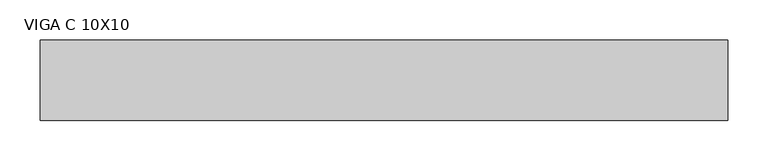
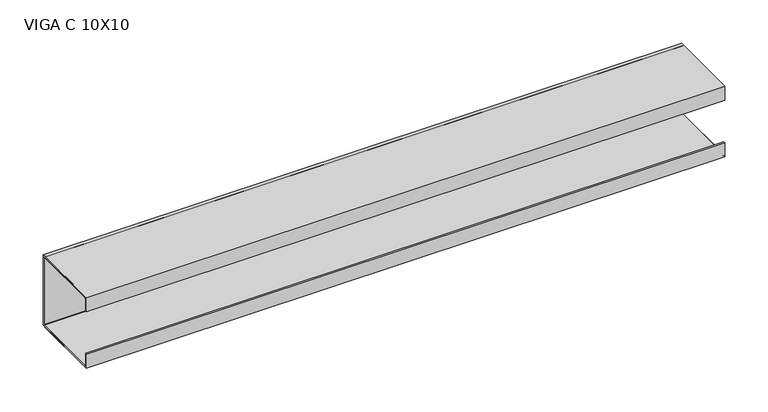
"""IFC4 building model written with IfcOpenShell, lengths in millimetres: beam geometry, VIGA PERFIL C AÇO : VIGA C 10X10."""

import ifcopenshell
import ifcopenshell.guid

model = None  # the IFC model being written
_history = None  # IfcOwnerHistory: only IFC2X3 demands one
_inside = {}  # id of a spatial element -> (the spatial element, [elements in it])
_under = {}  # id of a project, library or spatial element -> (it, [spatial elements below it])
_declared = {}  # id of a project -> (the project, [libraries it declares])
_typed = {}  # id of a type object -> (the type object, [elements of that type])
_made_of = {}  # id of a material, layer set ... -> (it, [elements and type objects made of it])


def new_model(schema):
    """Start an empty IFC model of exactly this schema.

    Asked for "IFC4X3", IfcOpenShell would pick the latest addendum, in which some entities
    have other attributes; the version numbers below select the first issue.
    IFC2X3 requires an IfcOwnerHistory on every rooted entity: one is made here for all.
    """
    global model, _history
    if schema == "IFC4X3":
        model = ifcopenshell.file(schema_version=(4, 3, 0, 0))
    else:
        model = ifcopenshell.file(schema=schema)
    _inside.clear()
    _under.clear()
    _declared.clear()
    _typed.clear()
    _made_of.clear()
    _history = None
    if model.schema == "IFC2X3":
        org = make("IfcOrganization", Name="unknown")
        user = make(
            "IfcPersonAndOrganization",
            ThePerson=make("IfcPerson", FamilyName="unknown"),
            TheOrganization=org,
        )
        app = make(
            "IfcApplication",
            ApplicationDeveloper=org,
            Version="unknown",
            ApplicationFullName="unknown",
            ApplicationIdentifier="unknown",
        )
        _history = make(
            "IfcOwnerHistory",
            OwningUser=user,
            OwningApplication=app,
            ChangeAction="ADDED",
            CreationDate=0,
        )
    return model


def make(cls, **values):
    """One entity of the class cls with the attributes given. An attribute that is None is left unset."""
    return model.create_entity(
        cls, **{name: value for name, value in values.items() if value is not None}
    )


def rooted(cls, **values):
    """An entity with a GlobalId (a new one), such as an element, a storey or a relation."""
    return make(cls, GlobalId=ifcopenshell.guid.new(), OwnerHistory=_history, **values)


def si_unit(unit_type, name, prefix=None):
    """IfcSIUnit, for example si_unit("LENGTHUNIT", "METRE", prefix="MILLI")."""
    return make("IfcSIUnit", UnitType=unit_type, Prefix=prefix, Name=name)


def assignment(units):
    """IfcUnitAssignment: the units of a project."""
    return None if units is None else make("IfcUnitAssignment", Units=units)


def point(xyz):
    """IfcCartesianPoint."""
    return None if xyz is None else make("IfcCartesianPoint", Coordinates=xyz)


def direction(xyz):
    """IfcDirection."""
    return None if xyz is None else make("IfcDirection", DirectionRatios=xyz)


def frame(location, z_axis=None, x_axis=None):
    """IfcAxis2Placement3D, a coordinate frame: its origin and axes. An axis left out is left unset."""
    return make(
        "IfcAxis2Placement3D",
        Location=point(location),
        Axis=direction(z_axis),
        RefDirection=direction(x_axis),
    )


def frame_2d(location, x_axis=None):
    """IfcAxis2Placement2D, a coordinate frame in the plane: its origin and x axis."""
    return make(
        "IfcAxis2Placement2D", Location=point(location), RefDirection=direction(x_axis)
    )


def origin():
    """The frame at (0, 0, 0) with its axes left unset."""
    return frame((0.0, 0.0, 0.0))


def place(relative_to, where):
    """IfcLocalPlacement: puts the frame where relative to a parent placement (None: the world)."""
    return make(
        "IfcLocalPlacement", PlacementRelTo=relative_to, RelativePlacement=where
    )


def context(
    kind, dimensions, precision=None, world=None, true_north=None, identifier=None
):
    """IfcGeometricRepresentationContext, for example the 3D "Model" context."""
    return make(
        "IfcGeometricRepresentationContext",
        ContextIdentifier=identifier,
        ContextType=kind,
        CoordinateSpaceDimension=dimensions,
        Precision=precision,
        WorldCoordinateSystem=world,
        TrueNorth=true_north,
    )


def project(units=None, contexts=None):
    """IfcProject with its units and contexts."""
    return rooted(
        "IfcProject",
        Name="project",
        RepresentationContexts=contexts,
        UnitsInContext=assignment(units),
    )


def spatial(cls, under=None, at=None, **own):
    """A site, building, storey or space (cls), placed at a placement, below another one or the project."""
    s = rooted(cls, ObjectPlacement=at, **own)
    if under is not None:
        _under.setdefault(under.id(), (under, []))[1].append(s)
    return s


def polyline(points):
    """IfcPolyline through the points."""
    return make("IfcPolyline", Points=[point(p) for p in points])


def circle_curve(where, radius):
    """IfcCircle in the frame where."""
    return make("IfcCircle", Position=where, Radius=radius)


def trimmed(basis, trim1, trim2, sense, master):
    """IfcTrimmedCurve: the piece of a basis curve between two trims."""
    return make(
        "IfcTrimmedCurve",
        BasisCurve=basis,
        Trim1=trim1,
        Trim2=trim2,
        SenseAgreement=sense,
        MasterRepresentation=master,
    )


def segment(curve, same_sense, transition):
    """IfcCompositeCurveSegment."""
    return make(
        "IfcCompositeCurveSegment",
        Transition=transition,
        SameSense=same_sense,
        ParentCurve=curve,
    )


def composite_curve(segments, self_intersect=None):
    """IfcCompositeCurve: segments joined end to end."""
    return make("IfcCompositeCurve", Segments=segments, SelfIntersect=self_intersect)


def outline(outer, holes=None, kind="AREA"):
    """IfcArbitraryClosedProfileDef: a profile drawn as a closed curve; with holes, ...WithVoids."""
    if holes is None:
        return make("IfcArbitraryClosedProfileDef", ProfileType=kind, OuterCurve=outer)
    return make(
        "IfcArbitraryProfileDefWithVoids",
        ProfileType=kind,
        OuterCurve=outer,
        InnerCurves=holes,
    )


def extrude(swept, where, along, depth):
    """IfcExtrudedAreaSolid: the profile swept, set in the frame where, extruded along a direction by depth."""
    return make(
        "IfcExtrudedAreaSolid",
        SweptArea=swept,
        Position=where,
        ExtrudedDirection=direction(along),
        Depth=depth,
    )


def shape(context_of_items, identifier, shape_type, items):
    """IfcShapeRepresentation: the items that make up one representation, for example the "Body"."""
    return make(
        "IfcShapeRepresentation",
        ContextOfItems=context_of_items,
        RepresentationIdentifier=identifier,
        RepresentationType=shape_type,
        Items=items,
    )


def source(mapping_origin, context_of_items, identifier, shape_type, items):
    """IfcRepresentationMap: a shape defined once, which mapped items show again and again."""
    return make(
        "IfcRepresentationMap",
        MappingOrigin=mapping_origin,
        MappedRepresentation=shape(context_of_items, identifier, shape_type, items),
    )


def transform(
    local_origin,
    x_axis=None,
    y_axis=None,
    z_axis=None,
    scale=None,
    scale2=None,
    scale3=None,
    uniform=True,
):
    """IfcCartesianTransformationOperator3D, or its non-uniform kind. x_axis, y_axis, z_axis: its Axis1, 2, 3."""
    if uniform:
        return make(
            "IfcCartesianTransformationOperator3D",
            Axis1=direction(x_axis),
            Axis2=direction(y_axis),
            LocalOrigin=point(local_origin),
            Scale=scale,
            Axis3=direction(z_axis),
        )
    return make(
        "IfcCartesianTransformationOperator3DnonUniform",
        Axis1=direction(x_axis),
        Axis2=direction(y_axis),
        LocalOrigin=point(local_origin),
        Scale=scale,
        Axis3=direction(z_axis),
        Scale2=scale2,
        Scale3=scale3,
    )


def mapped(mapping_source, mapping_target):
    """IfcMappedItem: shows the shape of a source again, moved by a transform."""
    return make(
        "IfcMappedItem", MappingSource=mapping_source, MappingTarget=mapping_target
    )


def made_of(thing, what):
    """Note that an element or type object is made of a material, layer set ...; save() writes the relation."""
    if what is not None:
        _made_of.setdefault(what.id(), (what, []))[1].append(thing)
    return thing


def element(
    cls,
    number,
    at=None,
    inside=None,
    cuts=None,
    type_object=None,
    material=None,
    context=None,
    identifier="Body",
    shape_type=None,
    held_by="IfcProductDefinitionShape",
    body=None,
    shapes=None,
    **own,
):
    """One element of the class cls, such as IfcWall. Its Tag is "e" and its number.

    at: its placement. inside: the storey or other place that contains it. cuts: it is an
    opening in that element (IfcRelVoidsElement). A single representation is given by context,
    identifier, shape_type and body (its items); several are given by shapes. held_by: the class
    of the entity that holds the representations. save() writes the other relations.
    """
    e = rooted(cls, Tag="e%d" % number, ObjectPlacement=at, **own)
    if body is not None:
        shapes = [shape(context, identifier, shape_type, body)]
    if shapes is not None:
        e.Representation = make(held_by, Representations=shapes)
    if inside is not None:
        _inside.setdefault(inside.id(), (inside, []))[1].append(e)
    if cuts is not None:
        rooted(
            "IfcRelVoidsElement", RelatingBuildingElement=cuts, RelatedOpeningElement=e
        )
    if type_object is not None:
        _typed.setdefault(type_object.id(), (type_object, []))[1].append(e)
    return made_of(e, material)


def aggregate(whole, parts):
    """IfcRelAggregates: a whole, such as a stair, and the parts it consists of."""
    return rooted("IfcRelAggregates", RelatingObject=whole, RelatedObjects=parts)


def save(model, path):
    """Write the relations noted so far, then the file.

    IfcRelAggregates (storeys below a building ...), IfcRelContainedInSpatialStructure (elements
    in a storey), IfcRelDefinesByType, IfcRelAssociatesMaterial and IfcRelDeclares: one each for
    every whole, place, type object, material and project.
    """
    for whole, parts in _under.values():
        aggregate(whole, parts)
    for where, things in _inside.values():
        rooted(
            "IfcRelContainedInSpatialStructure",
            RelatedElements=things,
            RelatingStructure=where,
        )
    for kind, things in _typed.values():
        rooted("IfcRelDefinesByType", RelatedObjects=things, RelatingType=kind)
    for what, things in _made_of.values():
        rooted("IfcRelAssociatesMaterial", RelatedObjects=things, RelatingMaterial=what)
    for by, libraries in _declared.values():
        rooted("IfcRelDeclares", RelatingContext=by, RelatedDefinitions=libraries)
    model.write(path)


def viga_c_10x10_01e8174d(model_context):
    return source(origin(), model_context, "Body", "SweptSolid", [
        extrude(outline(polyline([(9.2, -50.0), (-90.8, -50.0), (-90.8, -30.0), (-88.9, -30.0), (-88.9, -48.1), (7.3, -48.1), (7.3, 48.1), (-88.9, 48.1), (-88.9, 30.0), (-90.8, 30.0), (-90.8, 50.0), (9.2, 50.0), (9.2, -50.0)])), frame((-434.0, 0.0, 0.0), z_axis=(1.0, 0.0, 0.0), x_axis=(0.0, 1.0, 0.0)), (0.0, 0.0, 1.0), 853.0),
        extrude(outline(composite_curve([segment(trimmed(circle_curve(frame_2d((5.4, -46.2)), 3.8), [point((9.2, -46.2))], [point((5.4, -50.0))], False, "CARTESIAN"), True, "CONTINUOUS"), segment(polyline([(5.4, -50.0), (-87.0, -50.0)]), True, "CONTINUOUS"), segment(trimmed(circle_curve(frame_2d((-87.0, -46.2)), 3.8), [point((-87.0, -50.0))], [point((-90.8, -46.2))], False, "CARTESIAN"), True, "CONTINUOUS"), segment(polyline([(-90.8, -46.2), (-90.8, -30.0), (-88.9, -30.0), (-88.9, -46.2)]), True, "CONTINUOUS"), segment(trimmed(circle_curve(frame_2d((-87.0, -46.2)), 1.9), [point((-88.9, -46.2))], [point((-87.0, -48.1))], True, "CARTESIAN"), True, "CONTINUOUS"), segment(polyline([(-87.0, -48.1), (5.4, -48.1)]), True, "CONTINUOUS"), segment(trimmed(circle_curve(frame_2d((5.4, -46.2)), 1.9), [point((5.4, -48.1))], [point((7.3, -46.2))], True, "CARTESIAN"), True, "CONTINUOUS"), segment(polyline([(7.3, -46.2), (7.3, 46.2)]), True, "CONTINUOUS"), segment(trimmed(circle_curve(frame_2d((5.4, 46.2)), 1.9), [point((7.3, 46.2))], [point((5.4, 48.1))], True, "CARTESIAN"), True, "CONTINUOUS"), segment(polyline([(5.4, 48.1), (-87.0, 48.1)]), True, "CONTINUOUS"), segment(trimmed(circle_curve(frame_2d((-87.0, 46.2)), 1.9), [point((-87.0, 48.1))], [point((-88.9, 46.2))], True, "CARTESIAN"), True, "CONTINUOUS"), segment(polyline([(-88.9, 46.2), (-88.9, 30.0), (-90.8, 30.0), (-90.8, 46.2)]), True, "CONTINUOUS"), segment(trimmed(circle_curve(frame_2d((-87.0, 46.2)), 3.8), [point((-90.8, 46.2))], [point((-87.0, 50.0))], False, "CARTESIAN"), True, "CONTINUOUS"), segment(polyline([(-87.0, 50.0), (5.4, 50.0)]), True, "CONTINUOUS"), segment(trimmed(circle_curve(frame_2d((5.4, 46.2)), 3.8), [point((5.4, 50.0))], [point((9.2, 46.2))], False, "CARTESIAN"), True, "CONTINUOUS"), segment(polyline([(9.2, 46.2), (9.2, -46.2)]), True, "CONTINUOUS")], self_intersect=False)), frame((-434.0, 0.0, 0.0), z_axis=(1.0, 0.0, 0.0), x_axis=(0.0, 1.0, 0.0)), (0.0, 0.0, 1.0), 853.0),
    ])


if __name__ == "__main__":
    model = new_model("IFC4")
    model_context = context("Model", 3, world=origin())
    ifc_project = project(units=[si_unit("LENGTHUNIT", "METRE", prefix="MILLI")], contexts=[model_context])
    site = spatial("IfcSite", under=ifc_project)
    building = spatial("IfcBuilding", under=site)
    placement = place(None, origin())
    viga_c_10x10_shape = viga_c_10x10_01e8174d(model_context)
    element("IfcBeam", 1, ObjectType="VIGA PERFIL C AÇO : VIGA C 10X10", at=placement, inside=building, context=model_context, shape_type="MappedRepresentation", body=[
        mapped(viga_c_10x10_shape, transform((0.0, 0.0, 0.0), x_axis=(1.0, 0.0, 0.0), y_axis=(0.0, 1.0, 0.0), z_axis=(0.0, 0.0, 1.0))),
    ])
    save(model, "model.ifc")
